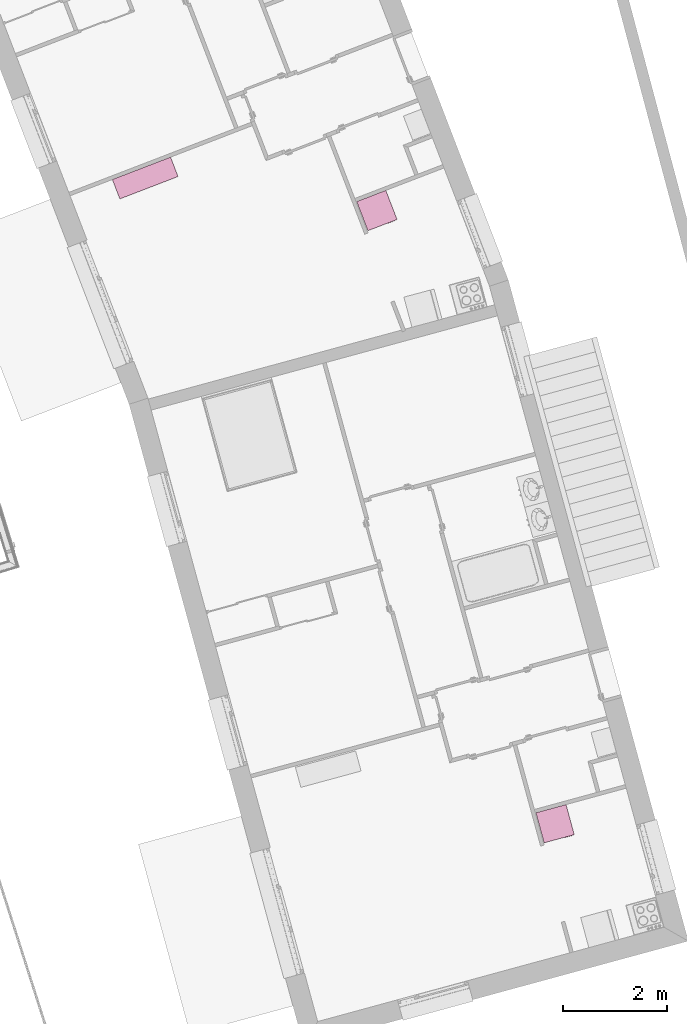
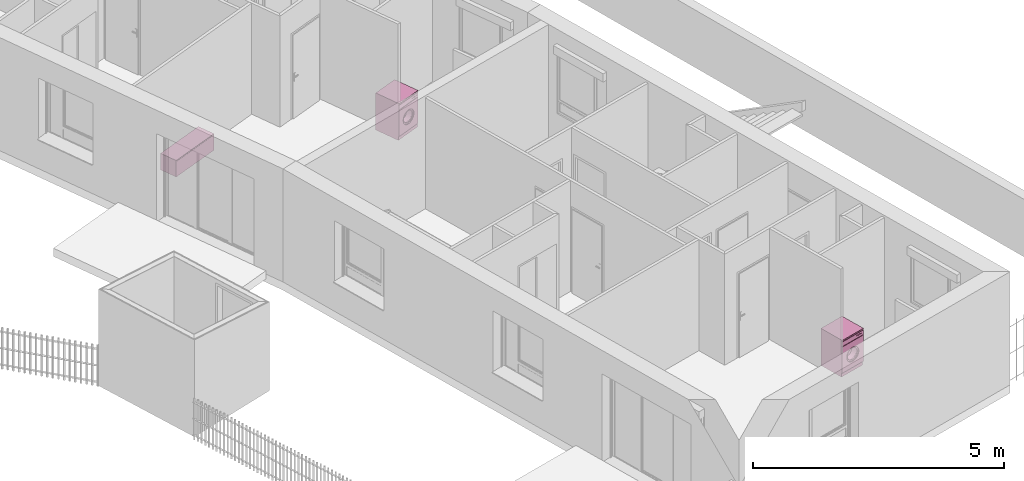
# One storey, part 162 of 195: 3 furnishings.
"""IFC2X3 building model written with IfcOpenShell, lengths in metres."""

from ifc_helpers import new_model, entity, si_unit, converted_unit, derived_unit, money_unit, direction, frame, origin_with_axes, place, context, subcontext, project, spatial, open_shell, faceted_brep, surface_model, source, transform, mapped, type_object, element, save


model = new_model("IFC2X3")

# Units and contexts
model_context = context("Model", 3, precision=1e-05, world=origin_with_axes(), true_north=direction((0.0, 1.0)))
body_context = subcontext(model_context, "Body", "Model", "MODEL_VIEW")
ifc_project = project(units=[si_unit("LENGTHUNIT", "METRE"), si_unit("AREAUNIT", "SQUARE_METRE"), si_unit("VOLUMEUNIT", "CUBIC_METRE"), converted_unit("PLANEANGLEUNIT", "DEGREE", entity("IfcPlaneAngleMeasure", 0.0174532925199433), si_unit("PLANEANGLEUNIT", "RADIAN"), dimensions=[0, 0, 0, 0, 0, 0, 0]), money_unit("CHF"), converted_unit("TIMEUNIT", "Year", entity("IfcTimeMeasure", 31557600.0), si_unit("TIMEUNIT", "SECOND"), dimensions=[0, 0, 1, 0, 0, 0, 0]), si_unit("MASSUNIT", "GRAM", prefix="KILO"), si_unit("THERMODYNAMICTEMPERATUREUNIT", "DEGREE_CELSIUS"), si_unit("LUMINOUSINTENSITYUNIT", "LUMEN"), si_unit("ENERGYUNIT", "JOULE", prefix="MEGA"), derived_unit("THERMALCONDUCTANCEUNIT", [(si_unit("POWERUNIT", "WATT"), 1), (si_unit("LENGTHUNIT", "METRE"), -1), (si_unit("THERMODYNAMICTEMPERATUREUNIT", "KELVIN"), -1)]), derived_unit("SPECIFICHEATCAPACITYUNIT", [(si_unit("ENERGYUNIT", "JOULE"), 1), (si_unit("MASSUNIT", "GRAM", prefix="KILO"), -1), (si_unit("THERMODYNAMICTEMPERATUREUNIT", "KELVIN"), -1)]), derived_unit("MASSDENSITYUNIT", [(si_unit("MASSUNIT", "GRAM", prefix="KILO"), 1), (si_unit("VOLUMEUNIT", "CUBIC_METRE"), -1)])], contexts=[model_context])

# Site, building, storey
site_placement = place(None, origin_with_axes())
site = spatial("IfcSite", under=ifc_project, at=site_placement, Name="Site", CompositionType="ELEMENT")
building_placement = place(site_placement, origin_with_axes())
building = spatial("IfcBuilding", under=site, at=building_placement, Name="Bâtiment", CompositionType="ELEMENT")
storey_placement = place(building_placement, origin_with_axes())
storey = spatial("IfcBuildingStorey", under=building, at=storey_placement, Name="rdc", CompositionType="ELEMENT", Elevation=0.0)

# Furnishings
furnishing_element_type_1 = type_object("IfcFurnishingElementType", Name="Meuble à plans 27")
shared_shape_1 = source(origin_with_axes(), body_context, "Body", "SurfaceModel", [
    surface_model("IfcShellBasedSurfaceModel", [(-1.18, 0.02, 0.0), (-1.18, 0.4, 0.0), (-0.02, 0.4, 0.0), (-0.02, 0.02, 0.0)], [open_shell([[[0, 1, 2, 3]]])]),
    faceted_brep([(0.0, 0.4, 0.0), (0.0, 0.0, 0.0), (-1.2, 0.0, 0.0), (-1.2, 0.4, 0.0), (0.0, 0.4, 0.4), (0.0, 0.0, 0.4), (-1.2, 0.0, 0.4), (-0.02, 0.0, 0.02), (-1.18, 0.0, 0.02), (-1.18, 0.0, 0.38), (-0.02, 0.0, 0.38), (-1.2, 0.4, 0.4), (-0.02, 0.4, 0.01999999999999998), (-0.02, 0.4, 0.38), (-1.18, 0.4, 0.38), (-1.18, 0.4, 0.01999999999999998)], [[[0, 1, 2, 3]], [[4, 5, 1, 0]], [[1, 5, 6, 2], [7, 8, 9, 10]], [[3, 2, 6, 11]], [[0, 3, 11, 4], [12, 13, 14, 15]], [[11, 6, 5, 4]], [[15, 8, 7, 12]], [[14, 9, 8, 15]], [[13, 10, 9, 14]], [[12, 7, 10, 13]]]),
    faceted_brep([(-1.18, 0.4, 0.01999999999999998), (-1.18, 0.4, 0.38), (-0.02, 0.4, 0.38), (-0.02, 0.4, 0.01999999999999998), (-1.18, 0.38, 0.01999999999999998), (-1.18, 0.3800000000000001, 0.38), (-0.02, 0.3800000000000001, 0.38), (-0.02, 0.38, 0.01999999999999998)], [[[0, 1, 2, 3]], [[0, 4, 5, 1]], [[1, 5, 6, 2]], [[2, 6, 7, 3]], [[3, 7, 4, 0]], [[7, 6, 5, 4]]]),
    faceted_brep([(-1.18, 0.0, 0.02), (-1.18, 0.38, 0.02), (-0.02, 0.38, 0.02), (-0.02, 0.0, 0.02), (-1.18, 0.0, 0.3750000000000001), (-1.18, 0.38, 0.3750000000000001), (-0.02, 0.38, 0.3750000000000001), (-0.02, 0.0, 0.3750000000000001)], [[[0, 1, 2, 3]], [[0, 4, 5, 1]], [[1, 5, 6, 2]], [[2, 6, 7, 3]], [[3, 7, 4, 0]], [[7, 6, 5, 4]]]),
])
furnishing_placement = place(storey_placement, frame((9587.319171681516, -1042.698668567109, 57.92018680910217), z_axis=(0.0, 0.0, 1.0), x_axis=(0.9332788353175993, 0.3591526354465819, 0.0)))
element("IfcFurnishingElement", 1, at=furnishing_placement, inside=storey, type_object=furnishing_element_type_1, Name="Obj.-376", context=body_context, shape_type="MappedRepresentation", body=[
    mapped(shared_shape_1, transform((0.0, 0.0, 0.0))),
])
furnishing_element_type_2 = type_object("IfcFurnishingElementType", Name="Machine à laver")
shared_shape_2 = source(origin_with_axes(), body_context, "Body", "SurfaceModel", [
    faceted_brep([(0.0, 0.02, 0.1), (0.0, 0.0, 0.1), (-0.6, 0.0, 0.1), (-0.6, 0.02, 0.1), (0.0, 0.02000000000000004, 0.74), (0.0, 0.0, 0.74), (-0.6, 0.0, 0.74), (-0.4714285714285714, 0.0, 0.42), (-0.4655872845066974, 0.0, 0.4643689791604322), (-0.448461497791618, 0.0, 0.5057142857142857), (-0.4212183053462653, 0.0, 0.5412183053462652), (-0.3857142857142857, 0.0, 0.568461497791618), (-0.3443689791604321, 0.0, 0.5855872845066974), (-0.3, 0.0, 0.5914285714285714), (-0.2556310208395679, 0.0, 0.5855872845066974), (-0.2142857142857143, 0.0, 0.5684614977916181), (-0.1787816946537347, 0.0, 0.5412183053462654), (-0.1515385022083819, 0.0, 0.5057142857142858), (-0.1344127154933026, 0.0, 0.4643689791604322), (-0.1285714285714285, 0.0, 0.42), (-0.1344127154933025, 0.0, 0.3756310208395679), (-0.1515385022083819, 0.0, 0.3342857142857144), (-0.1787816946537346, 0.0, 0.2987816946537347), (-0.2142857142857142, 0.0, 0.2715385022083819), (-0.2556310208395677, 0.0, 0.2544127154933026), (-0.2999999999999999, 0.0, 0.2485714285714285), (-0.344368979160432, 0.0, 0.2544127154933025), (-0.3857142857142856, 0.0, 0.2715385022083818), (-0.4212183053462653, 0.0, 0.2987816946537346), (-0.448461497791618, 0.0, 0.3342857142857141), (-0.4655872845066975, 0.0, 0.3756310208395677), (-0.6, 0.02000000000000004, 0.74), (-0.4714285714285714, 0.02000000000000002, 0.42), (-0.4655872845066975, 0.02000000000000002, 0.3756310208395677), (-0.448461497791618, 0.02000000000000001, 0.3342857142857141), (-0.4212183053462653, 0.02000000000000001, 0.2987816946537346), (-0.3857142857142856, 0.02000000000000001, 0.2715385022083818), (-0.344368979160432, 0.02000000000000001, 0.2544127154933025), (-0.2999999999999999, 0.02000000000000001, 0.2485714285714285), (-0.2556310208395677, 0.02000000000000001, 0.2544127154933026), (-0.2142857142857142, 0.02000000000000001, 0.2715385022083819), (-0.1787816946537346, 0.02000000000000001, 0.2987816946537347), (-0.1515385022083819, 0.02000000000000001, 0.3342857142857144), (-0.1344127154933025, 0.02000000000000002, 0.3756310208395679), (-0.1285714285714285, 0.02000000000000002, 0.42), (-0.1344127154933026, 0.02000000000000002, 0.4643689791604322), (-0.1515385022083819, 0.02000000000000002, 0.5057142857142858), (-0.1787816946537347, 0.02000000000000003, 0.5412183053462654), (-0.2142857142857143, 0.02000000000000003, 0.5684614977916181), (-0.2556310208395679, 0.02000000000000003, 0.5855872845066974), (-0.3, 0.02000000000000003, 0.5914285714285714), (-0.3443689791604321, 0.02000000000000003, 0.5855872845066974), (-0.3857142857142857, 0.02000000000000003, 0.568461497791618), (-0.4212183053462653, 0.02000000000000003, 0.5412183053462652), (-0.448461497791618, 0.02000000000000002, 0.5057142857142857), (-0.4655872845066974, 0.02000000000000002, 0.4643689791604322)], [[[0, 1, 2, 3]], [[4, 5, 1, 0]], [[1, 5, 6, 2], [7, 8, 9, 10, 11, 12, 13, 14, 15, 16, 17, 18, 19, 20, 21, 22, 23, 24, 25, 26, 27, 28, 29, 30]], [[3, 2, 6, 31]], [[0, 3, 31, 4], [32, 33, 34, 35, 36, 37, 38, 39, 40, 41, 42, 43, 44, 45, 46, 47, 48, 49, 50, 51, 52, 53, 54, 55]], [[31, 6, 5, 4]], [[55, 8, 7, 32]], [[54, 9, 8, 55]], [[53, 10, 9, 54]], [[52, 11, 10, 53]], [[51, 12, 11, 52]], [[50, 13, 12, 51]], [[49, 14, 13, 50]], [[48, 15, 14, 49]], [[47, 16, 15, 48]], [[46, 17, 16, 47]], [[45, 18, 17, 46]], [[44, 19, 18, 45]], [[43, 20, 19, 44]], [[42, 21, 20, 43]], [[41, 22, 21, 42]], [[40, 23, 22, 41]], [[39, 24, 23, 40]], [[38, 25, 24, 39]], [[37, 26, 25, 38]], [[36, 27, 26, 37]], [[35, 28, 27, 36]], [[34, 29, 28, 35]], [[33, 30, 29, 34]], [[32, 7, 30, 33]]]),
    faceted_brep([(-0.4714285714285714, 0.04000000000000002, 0.42), (-0.4714285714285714, 0.02000000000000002, 0.42), (-0.4655872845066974, 0.02000000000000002, 0.4643689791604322), (-0.4655872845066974, 0.04000000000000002, 0.4643689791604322), (-0.4655872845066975, 0.04000000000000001, 0.3756310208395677), (-0.4655872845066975, 0.02000000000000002, 0.3756310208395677), (-0.448461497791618, 0.02000000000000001, 0.3342857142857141), (-0.4212183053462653, 0.02000000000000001, 0.2987816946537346), (-0.3857142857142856, 0.02000000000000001, 0.2715385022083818), (-0.344368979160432, 0.02000000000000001, 0.2544127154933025), (-0.2999999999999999, 0.02000000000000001, 0.2485714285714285), (-0.2556310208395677, 0.02000000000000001, 0.2544127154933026), (-0.2142857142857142, 0.02000000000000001, 0.2715385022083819), (-0.1787816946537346, 0.02000000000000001, 0.2987816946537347), (-0.1515385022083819, 0.02000000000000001, 0.3342857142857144), (-0.1344127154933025, 0.02000000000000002, 0.3756310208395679), (-0.1285714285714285, 0.02000000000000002, 0.42), (-0.1344127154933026, 0.02000000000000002, 0.4643689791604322), (-0.1515385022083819, 0.02000000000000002, 0.5057142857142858), (-0.1787816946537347, 0.02000000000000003, 0.5412183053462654), (-0.2142857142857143, 0.02000000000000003, 0.5684614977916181), (-0.2556310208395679, 0.02000000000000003, 0.5855872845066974), (-0.3, 0.02000000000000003, 0.5914285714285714), (-0.3443689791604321, 0.02000000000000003, 0.5855872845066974), (-0.3857142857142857, 0.02000000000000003, 0.568461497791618), (-0.4212183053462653, 0.02000000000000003, 0.5412183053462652), (-0.448461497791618, 0.02000000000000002, 0.5057142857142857), (-0.4371428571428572, 0.02000000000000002, 0.42), (-0.432469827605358, 0.02000000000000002, 0.4554951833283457), (-0.4187691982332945, 0.02000000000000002, 0.4885714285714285), (-0.3969746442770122, 0.02000000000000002, 0.5169746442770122), (-0.3685714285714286, 0.02000000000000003, 0.5387691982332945), (-0.3354951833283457, 0.02000000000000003, 0.552469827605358), (-0.3, 0.02000000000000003, 0.5571428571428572), (-0.2645048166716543, 0.02000000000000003, 0.552469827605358), (-0.2314285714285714, 0.02000000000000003, 0.5387691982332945), (-0.2030253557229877, 0.02000000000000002, 0.5169746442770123), (-0.1812308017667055, 0.02000000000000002, 0.4885714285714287), (-0.167530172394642, 0.02000000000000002, 0.4554951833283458), (-0.1628571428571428, 0.02000000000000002, 0.42), (-0.167530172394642, 0.02000000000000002, 0.3845048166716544), (-0.1812308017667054, 0.02000000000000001, 0.3514285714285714), (-0.2030253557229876, 0.02000000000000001, 0.3230253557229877), (-0.2314285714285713, 0.02000000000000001, 0.3012308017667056), (-0.2645048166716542, 0.02000000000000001, 0.287530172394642), (-0.2999999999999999, 0.02000000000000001, 0.2828571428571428), (-0.3354951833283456, 0.02000000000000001, 0.287530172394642), (-0.3685714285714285, 0.02000000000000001, 0.3012308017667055), (-0.3969746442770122, 0.02000000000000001, 0.3230253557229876), (-0.4187691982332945, 0.02000000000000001, 0.3514285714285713), (-0.432469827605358, 0.02000000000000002, 0.3845048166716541), (-0.448461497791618, 0.04000000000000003, 0.5057142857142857), (-0.4212183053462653, 0.04000000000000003, 0.5412183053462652), (-0.3857142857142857, 0.04000000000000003, 0.568461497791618), (-0.3443689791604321, 0.04000000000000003, 0.5855872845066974), (-0.3, 0.04000000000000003, 0.5914285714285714), (-0.2556310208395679, 0.04000000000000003, 0.5855872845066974), (-0.2142857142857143, 0.04000000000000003, 0.5684614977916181), (-0.1787816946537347, 0.04000000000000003, 0.5412183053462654), (-0.1515385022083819, 0.04000000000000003, 0.5057142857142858), (-0.1344127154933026, 0.04000000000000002, 0.4643689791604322), (-0.1285714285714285, 0.04000000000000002, 0.42), (-0.1344127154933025, 0.04000000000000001, 0.3756310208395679), (-0.1515385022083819, 0.04000000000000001, 0.3342857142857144), (-0.1787816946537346, 0.04000000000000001, 0.2987816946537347), (-0.2142857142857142, 0.04000000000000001, 0.2715385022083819), (-0.2556310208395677, 0.04000000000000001, 0.2544127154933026), (-0.2999999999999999, 0.04000000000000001, 0.2485714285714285), (-0.344368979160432, 0.04000000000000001, 0.2544127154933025), (-0.3857142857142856, 0.04000000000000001, 0.2715385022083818), (-0.4212183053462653, 0.04000000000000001, 0.2987816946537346), (-0.448461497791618, 0.04000000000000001, 0.3342857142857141), (-0.4371428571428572, 0.04000000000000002, 0.42), (-0.432469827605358, 0.04000000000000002, 0.3845048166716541), (-0.4187691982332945, 0.04000000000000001, 0.3514285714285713), (-0.3969746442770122, 0.04000000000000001, 0.3230253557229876), (-0.3685714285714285, 0.04000000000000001, 0.3012308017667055), (-0.3354951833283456, 0.04000000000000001, 0.287530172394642), (-0.2999999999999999, 0.04000000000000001, 0.2828571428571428), (-0.2645048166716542, 0.04000000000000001, 0.287530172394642), (-0.2314285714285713, 0.04000000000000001, 0.3012308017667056), (-0.2030253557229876, 0.04000000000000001, 0.3230253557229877), (-0.1812308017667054, 0.04000000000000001, 0.3514285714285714), (-0.167530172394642, 0.04000000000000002, 0.3845048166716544), (-0.1628571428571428, 0.04000000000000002, 0.42), (-0.167530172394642, 0.04000000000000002, 0.4554951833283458), (-0.1812308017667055, 0.04000000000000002, 0.4885714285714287), (-0.2030253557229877, 0.04000000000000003, 0.5169746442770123), (-0.2314285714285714, 0.04000000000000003, 0.5387691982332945), (-0.2645048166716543, 0.04000000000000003, 0.552469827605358), (-0.3, 0.04000000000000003, 0.5571428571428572), (-0.3354951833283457, 0.04000000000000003, 0.552469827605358), (-0.3685714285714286, 0.04000000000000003, 0.5387691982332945), (-0.3969746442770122, 0.04000000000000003, 0.5169746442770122), (-0.4187691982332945, 0.04000000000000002, 0.4885714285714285), (-0.432469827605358, 0.04000000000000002, 0.4554951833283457)], [[[0, 1, 2, 3]], [[4, 5, 1, 0]], [[1, 5, 6, 7, 8, 9, 10, 11, 12, 13, 14, 15, 16, 17, 18, 19, 20, 21, 22, 23, 24, 25, 26, 2], [27, 28, 29, 30, 31, 32, 33, 34, 35, 36, 37, 38, 39, 40, 41, 42, 43, 44, 45, 46, 47, 48, 49, 50]], [[3, 2, 26, 51]], [[0, 3, 51, 52, 53, 54, 55, 56, 57, 58, 59, 60, 61, 62, 63, 64, 65, 66, 67, 68, 69, 70, 71, 4], [72, 73, 74, 75, 76, 77, 78, 79, 80, 81, 82, 83, 84, 85, 86, 87, 88, 89, 90, 91, 92, 93, 94, 95]], [[71, 6, 5, 4]], [[70, 7, 6, 71]], [[69, 8, 7, 70]], [[68, 9, 8, 69]], [[67, 10, 9, 68]], [[66, 11, 10, 67]], [[65, 12, 11, 66]], [[64, 13, 12, 65]], [[63, 14, 13, 64]], [[62, 15, 14, 63]], [[61, 16, 15, 62]], [[60, 17, 16, 61]], [[59, 18, 17, 60]], [[58, 19, 18, 59]], [[57, 20, 19, 58]], [[56, 21, 20, 57]], [[55, 22, 21, 56]], [[54, 23, 22, 55]], [[53, 24, 23, 54]], [[52, 25, 24, 53]], [[51, 26, 25, 52]], [[95, 28, 27, 72]], [[94, 29, 28, 95]], [[93, 30, 29, 94]], [[92, 31, 30, 93]], [[91, 32, 31, 92]], [[90, 33, 32, 91]], [[89, 34, 33, 90]], [[88, 35, 34, 89]], [[87, 36, 35, 88]], [[86, 37, 36, 87]], [[85, 38, 37, 86]], [[84, 39, 38, 85]], [[83, 40, 39, 84]], [[82, 41, 40, 83]], [[81, 42, 41, 82]], [[80, 43, 42, 81]], [[79, 44, 43, 80]], [[78, 45, 44, 79]], [[77, 46, 45, 78]], [[76, 47, 46, 77]], [[75, 48, 47, 76]], [[74, 49, 48, 75]], [[73, 50, 49, 74]], [[72, 27, 50, 73]]]),
    surface_model("IfcShellBasedSurfaceModel", [(-0.2645048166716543, 0.03999999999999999, 0.552469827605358), (-0.2733786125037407, 0.14, 0.5193523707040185), (-0.3, 0.14, 0.5228571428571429), (-0.3, 0.03999999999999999, 0.5571428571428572), (-0.2314285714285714, 0.03999999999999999, 0.5387691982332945), (-0.2485714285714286, 0.14, 0.5090768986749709), (-0.2272690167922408, 0.14, 0.4927309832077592), (-0.2109231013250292, 0.14, 0.4714285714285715), (-0.2006476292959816, 0.14, 0.4466213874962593), (-0.1971428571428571, 0.14, 0.4200000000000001), (-0.2006476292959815, 0.14, 0.3933786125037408), (-0.2109231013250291, 0.14, 0.3685714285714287), (-0.2272690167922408, 0.14, 0.3472690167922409), (-0.2485714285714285, 0.14, 0.3309231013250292), (-0.2733786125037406, 0.14, 0.3206476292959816), (-0.2999999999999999, 0.14, 0.3171428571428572), (-0.3266213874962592, 0.14, 0.3206476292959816), (-0.3514285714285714, 0.14, 0.3309231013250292), (-0.3727309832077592, 0.14, 0.3472690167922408), (-0.3890768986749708, 0.14, 0.3685714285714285), (-0.3993523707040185, 0.14, 0.3933786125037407), (-0.4028571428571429, 0.14, 0.42), (-0.3993523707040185, 0.14, 0.4466213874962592), (-0.3890768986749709, 0.14, 0.4714285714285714), (-0.3727309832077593, 0.14, 0.4927309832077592), (-0.3514285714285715, 0.14, 0.5090768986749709), (-0.3266213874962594, 0.14, 0.5193523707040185), (-0.3354951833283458, 0.03999999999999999, 0.552469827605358), (-0.2030253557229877, 0.03999999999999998, 0.5169746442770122), (-0.1812308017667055, 0.03999999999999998, 0.4885714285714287), (-0.167530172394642, 0.03999999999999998, 0.4554951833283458), (-0.1628571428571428, 0.03999999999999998, 0.4200000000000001), (-0.167530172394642, 0.03999999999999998, 0.3845048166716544), (-0.1812308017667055, 0.03999999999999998, 0.3514285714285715), (-0.2030253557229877, 0.03999999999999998, 0.3230253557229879), (-0.2314285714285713, 0.03999999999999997, 0.3012308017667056), (-0.2645048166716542, 0.03999999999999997, 0.2875301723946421), (-0.2999999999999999, 0.03999999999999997, 0.2828571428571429), (-0.3354951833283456, 0.03999999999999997, 0.2875301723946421), (-0.3685714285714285, 0.03999999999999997, 0.3012308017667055), (-0.3969746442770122, 0.03999999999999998, 0.3230253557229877), (-0.4187691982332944, 0.03999999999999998, 0.3514285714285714), (-0.432469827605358, 0.03999999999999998, 0.3845048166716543), (-0.4371428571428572, 0.03999999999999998, 0.4199999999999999), (-0.432469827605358, 0.03999999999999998, 0.4554951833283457), (-0.4187691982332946, 0.03999999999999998, 0.4885714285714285), (-0.3969746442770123, 0.03999999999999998, 0.5169746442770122), (-0.3685714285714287, 0.03999999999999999, 0.5387691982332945)], [open_shell([[[0, 1, 2, 3]], [[4, 5, 1, 0]], [[2, 1, 5, 6, 7, 8, 9, 10, 11, 12, 13, 14, 15, 16, 17, 18, 19, 20, 21, 22, 23, 24, 25, 26]], [[3, 2, 26, 27]], [[28, 6, 5, 4]], [[29, 7, 6, 28]], [[30, 8, 7, 29]], [[31, 9, 8, 30]], [[32, 10, 9, 31]], [[33, 11, 10, 32]], [[34, 12, 11, 33]], [[35, 13, 12, 34]], [[36, 14, 13, 35]], [[37, 15, 14, 36]], [[38, 16, 15, 37]], [[39, 17, 16, 38]], [[40, 18, 17, 39]], [[41, 19, 18, 40]], [[42, 20, 19, 41]], [[43, 21, 20, 42]], [[44, 22, 21, 43]], [[45, 23, 22, 44]], [[46, 24, 23, 45]], [[47, 25, 24, 46]], [[27, 26, 25, 47]]])]),
    surface_model("IfcShellBasedSurfaceModel", [(0.0, 0.02, 0.1), (0.0, 0.6, 0.09999999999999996), (0.0, 0.6, 0.87), (0.0, 0.02000000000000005, 0.87)], [open_shell([[[0, 1, 2, 3]]])]),
    surface_model("IfcShellBasedSurfaceModel", [(-0.6, 0.01999999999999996, 0.1), (-0.6, 0.5999999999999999, 0.09999999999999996), (-0.6, 0.5999999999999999, 0.87), (-0.6, 0.02000000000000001, 0.87)], [open_shell([[[0, 1, 2, 3]]])]),
    surface_model("IfcShellBasedSurfaceModel", [(0.0, 0.6, 0.1), (-0.6, 0.6, 0.1), (-0.6, 0.6, 0.87), (0.0, 0.6, 0.87)], [open_shell([[[0, 1, 2, 3]]])]),
    faceted_brep([(0.0, 0.02, 0.0), (0.0, 0.02, 0.1), (-0.6, 0.02, 0.1), (-0.6, 0.02, 0.0), (0.0, 0.6, 0.0), (0.0, 0.6, 0.1), (-0.6, 0.6, 0.1), (-0.6, 0.6, 0.0)], [[[0, 1, 2, 3]], [[4, 5, 1, 0]], [[1, 5, 6, 2]], [[3, 2, 6, 7]], [[0, 3, 7, 4]], [[7, 6, 5, 4]]]),
    faceted_brep([(0.0, 0.02, 0.75), (0.0, 0.0, 0.75), (-0.6, 0.0, 0.75), (-0.6, 0.02, 0.75), (0.0, 0.02000000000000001, 0.86), (0.0, 0.0, 0.86), (-0.6, 0.0, 0.86), (-0.6, 0.02000000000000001, 0.86)], [[[0, 1, 2, 3]], [[4, 5, 1, 0]], [[1, 5, 6, 2]], [[3, 2, 6, 7]], [[0, 3, 7, 4]], [[7, 6, 5, 4]]]),
    surface_model("IfcShellBasedSurfaceModel", [(0.0, 0.02, 0.74), (-0.6, 0.02, 0.74), (-0.6, 0.02000000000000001, 0.87), (0.0, 0.02000000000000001, 0.87)], [open_shell([[[0, 1, 2, 3]]])]),
    faceted_brep([(0.0, 0.0, 0.87), (0.0, 0.0, 0.9), (-0.6, 0.0, 0.9), (-0.6, 0.0, 0.87), (0.0, 0.6, 0.87), (0.0, 0.6, 0.9), (-0.6, 0.6, 0.9), (-0.6, 0.6, 0.87)], [[[0, 1, 2, 3]], [[4, 5, 1, 0]], [[1, 5, 6, 2]], [[3, 2, 6, 7]], [[0, 3, 7, 4]], [[7, 6, 5, 4]]]),
    faceted_brep([(-0.06866025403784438, 0.0, 0.8049999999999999), (-0.06999999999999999, 0.0, 0.8099999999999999), (-0.06866025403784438, 0.0, 0.815), (-0.065, 0.0, 0.8186602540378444), (-0.06, 0.0, 0.82), (-0.055, 0.0, 0.8186602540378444), (-0.05133974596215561, 0.0, 0.815), (-0.05, 0.0, 0.8099999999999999), (-0.05133974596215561, 0.0, 0.8049999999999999), (-0.05499999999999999, 0.0, 0.8013397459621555), (-0.05999999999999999, 0.0, 0.7999999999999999), (-0.06499999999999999, 0.0, 0.8013397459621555), (-0.06866025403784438, -0.01, 0.8049999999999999), (-0.06999999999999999, -0.01, 0.8099999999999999), (-0.06866025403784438, -0.01, 0.815), (-0.065, -0.01, 0.8186602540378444), (-0.06, -0.01, 0.82), (-0.055, -0.01, 0.8186602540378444), (-0.05133974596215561, -0.01, 0.815), (-0.05, -0.01, 0.8099999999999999), (-0.05133974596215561, -0.01, 0.8049999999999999), (-0.05499999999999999, -0.01, 0.8013397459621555), (-0.05999999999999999, -0.01, 0.7999999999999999), (-0.06499999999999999, -0.01, 0.8013397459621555)], [[[0, 1, 2, 3, 4, 5, 6, 7, 8, 9, 10, 11]], [[0, 12, 13, 1]], [[1, 13, 14, 2]], [[2, 14, 15, 3]], [[3, 15, 16, 4]], [[4, 16, 17, 5]], [[5, 17, 18, 6]], [[6, 18, 19, 7]], [[7, 19, 20, 8]], [[8, 20, 21, 9]], [[9, 21, 22, 10]], [[10, 22, 23, 11]], [[11, 23, 12, 0]], [[12, 23, 22, 21, 20, 19, 18, 17, 16, 15, 14, 13]]]),
    faceted_brep([(-0.1086602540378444, 0.0, 0.8049999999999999), (-0.11, 0.0, 0.8099999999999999), (-0.1086602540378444, 0.0, 0.815), (-0.105, 0.0, 0.8186602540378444), (-0.1, 0.0, 0.82), (-0.095, 0.0, 0.8186602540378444), (-0.09133974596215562, 0.0, 0.815), (-0.09000000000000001, 0.0, 0.8099999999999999), (-0.09133974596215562, 0.0, 0.8049999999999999), (-0.095, 0.0, 0.8013397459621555), (-0.09999999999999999, 0.0, 0.7999999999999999), (-0.105, 0.0, 0.8013397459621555), (-0.1086602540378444, -0.01, 0.8049999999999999), (-0.11, -0.01, 0.8099999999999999), (-0.1086602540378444, -0.01, 0.815), (-0.105, -0.01, 0.8186602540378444), (-0.1, -0.01, 0.82), (-0.095, -0.01, 0.8186602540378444), (-0.09133974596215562, -0.01, 0.815), (-0.09000000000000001, -0.01, 0.8099999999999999), (-0.09133974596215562, -0.01, 0.8049999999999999), (-0.095, -0.01, 0.8013397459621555), (-0.09999999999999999, -0.01, 0.7999999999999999), (-0.105, -0.01, 0.8013397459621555)], [[[0, 1, 2, 3, 4, 5, 6, 7, 8, 9, 10, 11]], [[0, 12, 13, 1]], [[1, 13, 14, 2]], [[2, 14, 15, 3]], [[3, 15, 16, 4]], [[4, 16, 17, 5]], [[5, 17, 18, 6]], [[6, 18, 19, 7]], [[7, 19, 20, 8]], [[8, 20, 21, 9]], [[9, 21, 22, 10]], [[10, 22, 23, 11]], [[11, 23, 12, 0]], [[12, 23, 22, 21, 20, 19, 18, 17, 16, 15, 14, 13]]]),
    faceted_brep([(-0.1486602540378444, 0.0, 0.8049999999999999), (-0.15, 0.0, 0.8099999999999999), (-0.1486602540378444, 0.0, 0.815), (-0.145, 0.0, 0.8186602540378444), (-0.14, 0.0, 0.82), (-0.135, 0.0, 0.8186602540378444), (-0.1313397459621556, 0.0, 0.815), (-0.13, 0.0, 0.8099999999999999), (-0.1313397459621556, 0.0, 0.8049999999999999), (-0.135, 0.0, 0.8013397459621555), (-0.14, 0.0, 0.7999999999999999), (-0.145, 0.0, 0.8013397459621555), (-0.1486602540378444, -0.01, 0.8049999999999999), (-0.15, -0.01, 0.8099999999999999), (-0.1486602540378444, -0.01, 0.815), (-0.145, -0.01, 0.8186602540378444), (-0.14, -0.01, 0.82), (-0.135, -0.01, 0.8186602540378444), (-0.1313397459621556, -0.01, 0.815), (-0.13, -0.01, 0.8099999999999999), (-0.1313397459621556, -0.01, 0.8049999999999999), (-0.135, -0.01, 0.8013397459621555), (-0.14, -0.01, 0.7999999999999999), (-0.145, -0.01, 0.8013397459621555)], [[[0, 1, 2, 3, 4, 5, 6, 7, 8, 9, 10, 11]], [[0, 12, 13, 1]], [[1, 13, 14, 2]], [[2, 14, 15, 3]], [[3, 15, 16, 4]], [[4, 16, 17, 5]], [[5, 17, 18, 6]], [[6, 18, 19, 7]], [[7, 19, 20, 8]], [[8, 20, 21, 9]], [[9, 21, 22, 10]], [[10, 22, 23, 11]], [[11, 23, 12, 0]], [[12, 23, 22, 21, 20, 19, 18, 17, 16, 15, 14, 13]]]),
    faceted_brep([(-0.1886602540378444, 0.0, 0.8049999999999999), (-0.19, 0.0, 0.8099999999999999), (-0.1886602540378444, 0.0, 0.815), (-0.185, 0.0, 0.8186602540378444), (-0.18, 0.0, 0.82), (-0.175, 0.0, 0.8186602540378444), (-0.1713397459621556, 0.0, 0.815), (-0.17, 0.0, 0.8099999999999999), (-0.1713397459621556, 0.0, 0.8049999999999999), (-0.175, 0.0, 0.8013397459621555), (-0.18, 0.0, 0.7999999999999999), (-0.185, 0.0, 0.8013397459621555), (-0.1886602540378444, -0.01, 0.8049999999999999), (-0.19, -0.01, 0.8099999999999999), (-0.1886602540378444, -0.01, 0.815), (-0.185, -0.01, 0.8186602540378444), (-0.18, -0.01, 0.82), (-0.175, -0.01, 0.8186602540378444), (-0.1713397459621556, -0.01, 0.815), (-0.17, -0.01, 0.8099999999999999), (-0.1713397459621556, -0.01, 0.8049999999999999), (-0.175, -0.01, 0.8013397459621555), (-0.18, -0.01, 0.7999999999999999), (-0.185, -0.01, 0.8013397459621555)], [[[0, 1, 2, 3, 4, 5, 6, 7, 8, 9, 10, 11]], [[0, 12, 13, 1]], [[1, 13, 14, 2]], [[2, 14, 15, 3]], [[3, 15, 16, 4]], [[4, 16, 17, 5]], [[5, 17, 18, 6]], [[6, 18, 19, 7]], [[7, 19, 20, 8]], [[8, 20, 21, 9]], [[9, 21, 22, 10]], [[10, 22, 23, 11]], [[11, 23, 12, 0]], [[12, 23, 22, 21, 20, 19, 18, 17, 16, 15, 14, 13]]]),
])
for number, where, z_axis, x_axis, name in (
    (2, (9591.534815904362, -1043.525538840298, 57.49999999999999), (0.0, 0.0, 1.0), (0.9332788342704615, 0.35915263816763, 0.0), "Obj.-019"),
    (3, (9594.94557677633, -1055.36627679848, 57.7), (0.0, 0.0, 1.0), (0.9648682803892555, 0.2627340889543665, 0.0), "Obj.-019"),
):
    element("IfcFurnishingElement", number, at=place(storey_placement, frame(where, z_axis=z_axis, x_axis=x_axis)), inside=storey, type_object=furnishing_element_type_2, Name=name, context=body_context, shape_type="MappedRepresentation", body=[
        mapped(shared_shape_2, transform((0.0, 0.0, 0.0))),
    ])

save(model, "model.ifc")
